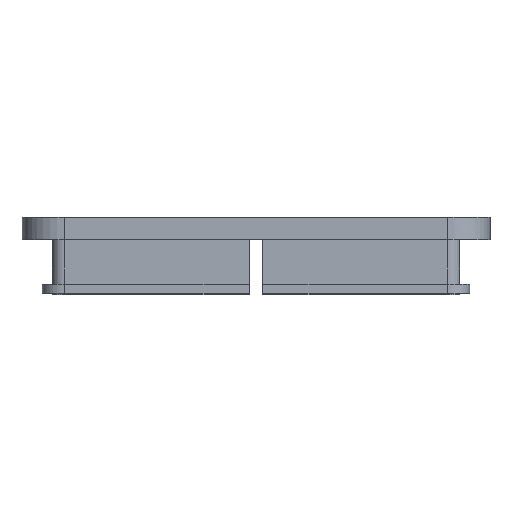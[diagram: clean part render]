
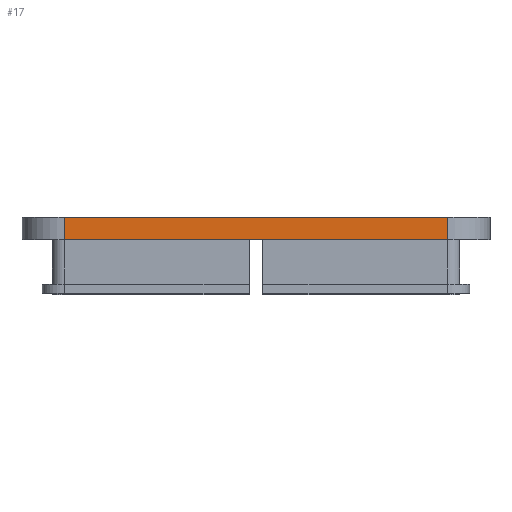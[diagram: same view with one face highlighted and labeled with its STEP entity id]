
A CAD part, left-side view. The second image highlights one B-rep face of the part: STEP entity #17.
In plain terms, the highlighted planar face has unit normal (-1, 0, 0).
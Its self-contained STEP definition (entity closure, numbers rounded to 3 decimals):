
#17 = ADVANCED_FACE('',(#18),#32,.T.);
#18 = FACE_BOUND('',#19,.T.);
#19 = EDGE_LOOP('',(#20,#55,#83,#111));
#20 = ORIENTED_EDGE('',*,*,#21,.T.);
#21 = EDGE_CURVE('',#22,#24,#26,.T.);
#22 = VERTEX_POINT('',#23);
#23 = CARTESIAN_POINT('',(-20.75,-17.,0.));
#24 = VERTEX_POINT('',#25);
#25 = CARTESIAN_POINT('',(-20.75,-17.,2.));
#26 = SURFACE_CURVE('',#27,(#31,#43),.PCURVE_S1.);
#27 = LINE('',#28,#29);
#28 = CARTESIAN_POINT('',(-20.75,-17.,0.));
#29 = VECTOR('',#30,1.);
#30 = DIRECTION('',(0.,0.,1.));
#31 = PCURVE('',#32,#37);
#32 = PLANE('',#33);
#33 = AXIS2_PLACEMENT_3D('',#34,#35,#36);
#34 = CARTESIAN_POINT('',(-20.75,-17.,0.));
#35 = DIRECTION('',(-1.,0.,0.));
#36 = DIRECTION('',(0.,1.,0.));
#37 = DEFINITIONAL_REPRESENTATION('',(#38),#42);
#38 = LINE('',#39,#40);
#39 = CARTESIAN_POINT('',(0.,0.));
#40 = VECTOR('',#41,1.);
#41 = DIRECTION('',(0.,-1.));
#42 = ( GEOMETRIC_REPRESENTATION_CONTEXT(2) 
PARAMETRIC_REPRESENTATION_CONTEXT() REPRESENTATION_CONTEXT('2D SPACE',''
  ) );
#43 = PCURVE('',#44,#49);
#44 = CYLINDRICAL_SURFACE('',#45,3.75);
#45 = AXIS2_PLACEMENT_3D('',#46,#47,#48);
#46 = CARTESIAN_POINT('',(-17.,-17.,0.));
#47 = DIRECTION('',(0.,0.,-1.));
#48 = DIRECTION('',(-1.,0.,0.));
#49 = DEFINITIONAL_REPRESENTATION('',(#50),#54);
#50 = LINE('',#51,#52);
#51 = CARTESIAN_POINT('',(6.283,0.));
#52 = VECTOR('',#53,1.);
#53 = DIRECTION('',(0.,-1.));
#54 = ( GEOMETRIC_REPRESENTATION_CONTEXT(2) 
PARAMETRIC_REPRESENTATION_CONTEXT() REPRESENTATION_CONTEXT('2D SPACE',''
  ) );
#55 = ORIENTED_EDGE('',*,*,#56,.T.);
#56 = EDGE_CURVE('',#24,#57,#59,.T.);
#57 = VERTEX_POINT('',#58);
#58 = CARTESIAN_POINT('',(-20.75,17.,2.));
#59 = SURFACE_CURVE('',#60,(#64,#71),.PCURVE_S1.);
#60 = LINE('',#61,#62);
#61 = CARTESIAN_POINT('',(-20.75,0.,2.));
#62 = VECTOR('',#63,1.);
#63 = DIRECTION('',(0.,1.,0.));
#64 = PCURVE('',#32,#65);
#65 = DEFINITIONAL_REPRESENTATION('',(#66),#70);
#66 = LINE('',#67,#68);
#67 = CARTESIAN_POINT('',(17.,-2.));
#68 = VECTOR('',#69,1.);
#69 = DIRECTION('',(1.,0.));
#70 = ( GEOMETRIC_REPRESENTATION_CONTEXT(2) 
PARAMETRIC_REPRESENTATION_CONTEXT() REPRESENTATION_CONTEXT('2D SPACE',''
  ) );
#71 = PCURVE('',#72,#77);
#72 = PLANE('',#73);
#73 = AXIS2_PLACEMENT_3D('',#74,#75,#76);
#74 = CARTESIAN_POINT('',(0.,0.,2.));
#75 = DIRECTION('',(0.,0.,1.));
#76 = DIRECTION('',(1.,0.,-0.));
#77 = DEFINITIONAL_REPRESENTATION('',(#78),#82);
#78 = LINE('',#79,#80);
#79 = CARTESIAN_POINT('',(-20.75,0.));
#80 = VECTOR('',#81,1.);
#81 = DIRECTION('',(0.,1.));
#82 = ( GEOMETRIC_REPRESENTATION_CONTEXT(2) 
PARAMETRIC_REPRESENTATION_CONTEXT() REPRESENTATION_CONTEXT('2D SPACE',''
  ) );
#83 = ORIENTED_EDGE('',*,*,#84,.F.);
#84 = EDGE_CURVE('',#85,#57,#87,.T.);
#85 = VERTEX_POINT('',#86);
#86 = CARTESIAN_POINT('',(-20.75,17.,0.));
#87 = SURFACE_CURVE('',#88,(#92,#99),.PCURVE_S1.);
#88 = LINE('',#89,#90);
#89 = CARTESIAN_POINT('',(-20.75,17.,0.));
#90 = VECTOR('',#91,1.);
#91 = DIRECTION('',(0.,0.,1.));
#92 = PCURVE('',#32,#93);
#93 = DEFINITIONAL_REPRESENTATION('',(#94),#98);
#94 = LINE('',#95,#96);
#95 = CARTESIAN_POINT('',(34.,0.));
#96 = VECTOR('',#97,1.);
#97 = DIRECTION('',(0.,-1.));
#98 = ( GEOMETRIC_REPRESENTATION_CONTEXT(2) 
PARAMETRIC_REPRESENTATION_CONTEXT() REPRESENTATION_CONTEXT('2D SPACE',''
  ) );
#99 = PCURVE('',#100,#105);
#100 = CYLINDRICAL_SURFACE('',#101,3.75);
#101 = AXIS2_PLACEMENT_3D('',#102,#103,#104);
#102 = CARTESIAN_POINT('',(-17.,17.,0.));
#103 = DIRECTION('',(0.,0.,-1.));
#104 = DIRECTION('',(-1.,0.,0.));
#105 = DEFINITIONAL_REPRESENTATION('',(#106),#110);
#106 = LINE('',#107,#108);
#107 = CARTESIAN_POINT('',(0.,0.));
#108 = VECTOR('',#109,1.);
#109 = DIRECTION('',(0.,-1.));
#110 = ( GEOMETRIC_REPRESENTATION_CONTEXT(2) 
PARAMETRIC_REPRESENTATION_CONTEXT() REPRESENTATION_CONTEXT('2D SPACE',''
  ) );
#111 = ORIENTED_EDGE('',*,*,#112,.F.);
#112 = EDGE_CURVE('',#22,#85,#113,.T.);
#113 = SURFACE_CURVE('',#114,(#118,#125),.PCURVE_S1.);
#114 = LINE('',#115,#116);
#115 = CARTESIAN_POINT('',(-20.75,0.,0.));
#116 = VECTOR('',#117,1.);
#117 = DIRECTION('',(0.,1.,0.));
#118 = PCURVE('',#32,#119);
#119 = DEFINITIONAL_REPRESENTATION('',(#120),#124);
#120 = LINE('',#121,#122);
#121 = CARTESIAN_POINT('',(17.,0.));
#122 = VECTOR('',#123,1.);
#123 = DIRECTION('',(1.,0.));
#124 = ( GEOMETRIC_REPRESENTATION_CONTEXT(2) 
PARAMETRIC_REPRESENTATION_CONTEXT() REPRESENTATION_CONTEXT('2D SPACE',''
  ) );
#125 = PCURVE('',#126,#131);
#126 = PLANE('',#127);
#127 = AXIS2_PLACEMENT_3D('',#128,#129,#130);
#128 = CARTESIAN_POINT('',(0.,0.,0.));
#129 = DIRECTION('',(0.,0.,1.));
#130 = DIRECTION('',(1.,0.,-0.));
#131 = DEFINITIONAL_REPRESENTATION('',(#132),#136);
#132 = LINE('',#133,#134);
#133 = CARTESIAN_POINT('',(-20.75,0.));
#134 = VECTOR('',#135,1.);
#135 = DIRECTION('',(0.,1.));
#136 = ( GEOMETRIC_REPRESENTATION_CONTEXT(2) 
PARAMETRIC_REPRESENTATION_CONTEXT() REPRESENTATION_CONTEXT('2D SPACE',''
  ) );
